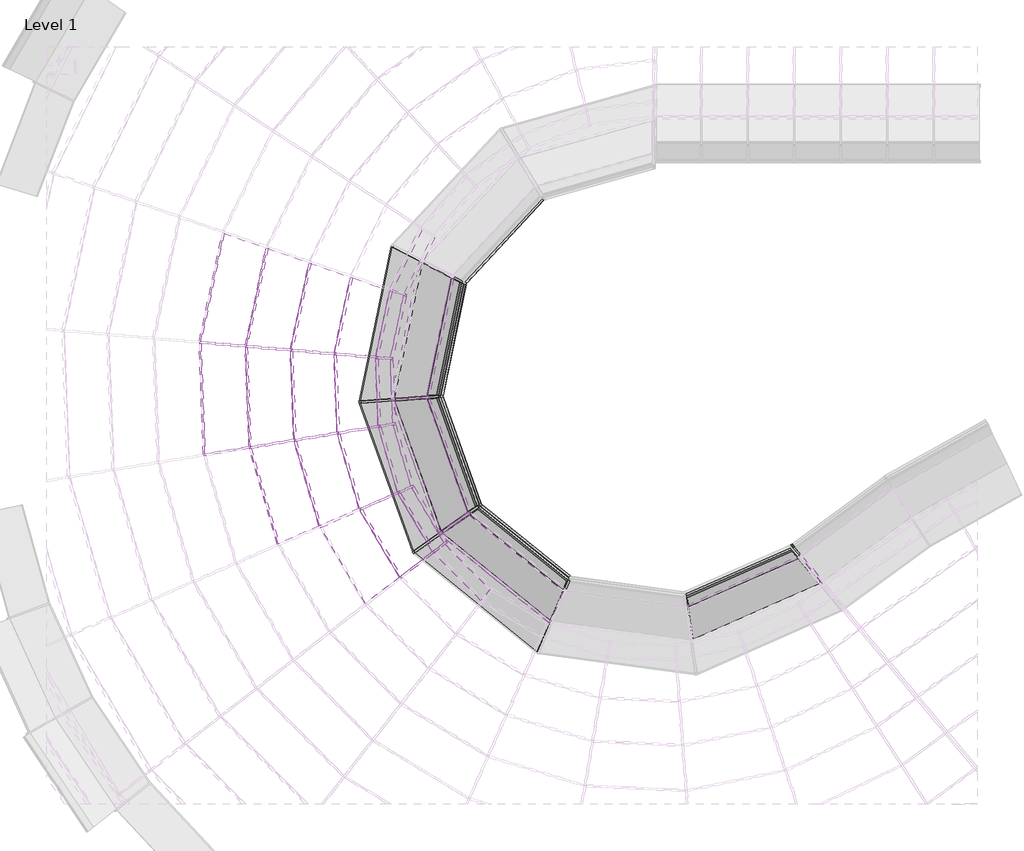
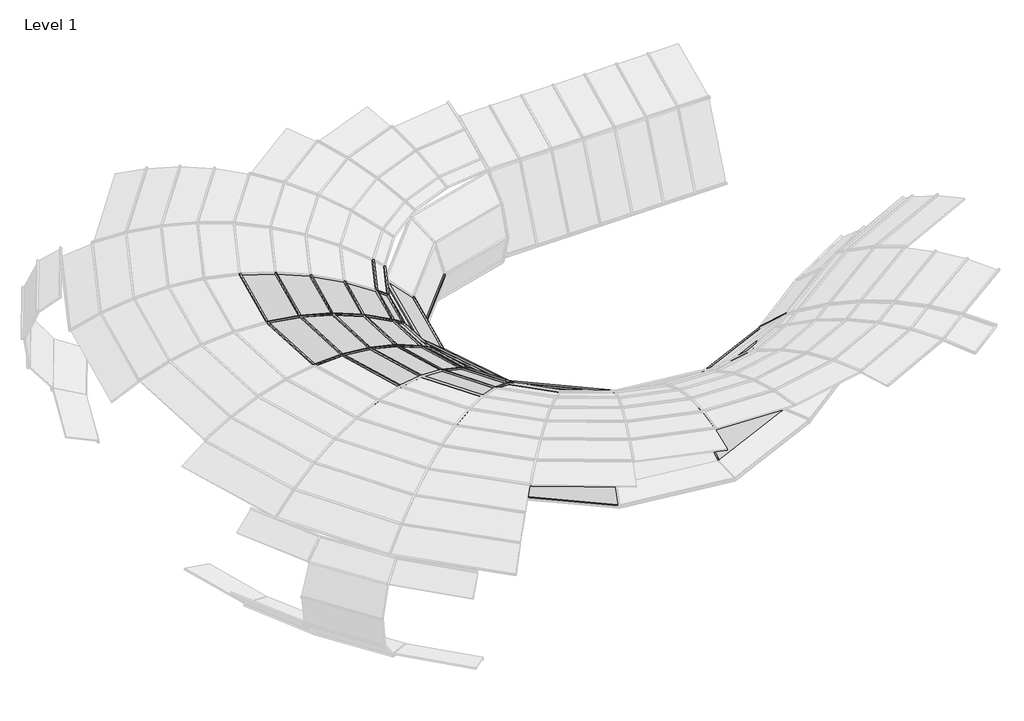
# One storey, part 6 of 23: 68 members, 36 plates.
"""IFC4 building model written with IfcOpenShell, lengths in millimetres."""

from ifc_helpers import new_model, si_unit, origin, place, context, project, spatial, transform, mapped, element, save
from components import member_c876edb5, member_782630c7, member_398e5ff5, member_398607d0, member_5ccaa950, member_8174f0e4, member_18f2ae55, member_299080b6, member_cb0bb3a9, member_172ab1ab, member_54499f2f, member_c8b9029b, member_0cd36c09, member_d0a40a1c, member_ff9adfd2, member_8c9da58c, member_391bee44, member_01ebdf2a, member_d6b8231b, member_c947e835, member_77008461, member_264a49eb, system_panel_glazed_9f229a92, system_panel_glazed_a07c5774, system_panel_glazed_4fd85c75, system_panel_glazed_1256fb3b, system_panel_glazed_de823024, system_panel_glazed_b0e446d2, system_panel_glazed_ac948568, system_panel_glazed_688557e5, system_panel_glazed_4c871569, system_panel_glazed_08c7efc5

model = new_model("IFC4")

# Units and contexts
model_context = context("Model", 3, world=origin())
ifc_project = project(units=[si_unit("LENGTHUNIT", "METRE", prefix="MILLI")], contexts=[model_context])

# Site, building, storey
site = spatial("IfcSite", under=ifc_project)
building = spatial("IfcBuilding", under=site)
storey = spatial("IfcBuildingStorey", under=building, Name="Level 1", Elevation=0.0)

# Members
placement = place(None, origin())
member_shape = member_c876edb5(model_context)
element("IfcMember", 1, ObjectType="Rectangular Mullion : 1\" Square", at=placement, inside=storey, context=model_context, shape_type="MappedRepresentation", body=[
    mapped(member_shape, transform((-14677.9959205, -925.1409597, 2676.0506073), x_axis=(0.9418970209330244, -0.200067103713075, -0.26982059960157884), y_axis=(0.26393230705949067, -0.0560615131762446, 0.9629106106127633), z_axis=(-0.20777328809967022, -0.9781770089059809, 0.0))),
])
element("IfcMember", 2, ObjectType="Rectangular Mullion : 1\" Square", at=placement, inside=storey, context=model_context, shape_type="MappedRepresentation", body=[
    mapped(member_shape, transform((-14635.9413521, -2105.5336551, 2676.0506073), x_axis=(0.9622064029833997, 0.03681958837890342, -0.26982059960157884), y_axis=(0.2696232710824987, 0.01031734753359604, 0.9629106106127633), z_axis=(0.03823780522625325, -0.9992686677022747, 0.0))),
])
element("IfcMember", 3, ObjectType="Rectangular Mullion : 1\" Square", at=placement, inside=storey, context=model_context, shape_type="MappedRepresentation", body=[
    mapped(member_shape, transform((-14305.9433988, -3239.6398462, 2676.0506073), x_axis=(0.9238536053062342, 0.2714615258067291, -0.2698205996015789), y_axis=(0.2588762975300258, 0.07606719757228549, 0.9629106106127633), z_axis=(0.2819176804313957, -0.9594385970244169, 0.0))),
])
member_2_shape = member_782630c7(model_context)
element("IfcMember", 4, ObjectType="Rectangular Mullion : 1\" Square", at=placement, inside=storey, context=model_context, shape_type="MappedRepresentation", body=[
    mapped(member_2_shape, transform((-14104.2887069, -974.3275091, 2475.91846), x_axis=(0.9040281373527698, -0.192023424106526, -0.38191639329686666), y_axis=(0.37358183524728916, -0.07935202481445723, 0.924196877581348), z_axis=(-0.20777328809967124, -0.9781770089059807, 0.0))),
])
element("IfcMember", 5, ObjectType="Rectangular Mullion : 1\" Square", at=placement, inside=storey, context=model_context, shape_type="MappedRepresentation", body=[
    mapped(member_2_shape, transform((-14067.6706277, -2012.6484174, 2475.91846), x_axis=(0.9235209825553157, 0.03533926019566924, -0.3819163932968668), y_axis=(0.38163708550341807, 0.014603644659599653, 0.9241968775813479), z_axis=(0.03823780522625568, -0.9992686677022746, 0.0))),
])
element("IfcMember", 6, ObjectType="Rectangular Mullion : 1\" Square", at=placement, inside=storey, context=model_context, shape_type="MappedRepresentation", body=[
    mapped(member_2_shape, transform((-13777.7545362, -3010.3456923, 2475.91846), x_axis=(0.8867101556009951, 0.2605474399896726, -0.3819163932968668), y_axis=(0.36642532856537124, 0.10766898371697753, 0.9241968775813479), z_axis=(0.2819176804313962, -0.9594385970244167, 0.0))),
])
element("IfcMember", 7, ObjectType="Rectangular Mullion : 1\" Square", at=placement, inside=storey, context=model_context, shape_type="MappedRepresentation", body=[
    mapped(member_2_shape, transform((-13252.2155485, -3906.5934062, 2475.91846), x_axis=(0.7958398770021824, 0.4698710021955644, -0.3819163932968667), y_axis=(0.32887396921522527, 0.194170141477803, 0.9241968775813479), z_axis=(0.5084100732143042, -0.8611150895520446, 0.0))),
])
member_3_shape = member_398e5ff5(model_context)
element("IfcMember", 8, ObjectType="Rectangular Mullion : 1\" Square", at=placement, inside=storey, context=model_context, shape_type="MappedRepresentation", body=[
    mapped(member_3_shape, transform((-13367.598738, -137.81555, 2208.6526723), x_axis=(0.7829440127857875, -0.38483511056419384, -0.48877460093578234), y_axis=(0.4386505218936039, -0.2156068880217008, 0.8724101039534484), z_axis=(-0.4411172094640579, -0.8974495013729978, 0.0))),
])
element("IfcMember", 9, ObjectType="Rectangular Mullion : 1\" Square", at=placement, inside=storey, context=model_context, shape_type="MappedRepresentation", body=[
    mapped(member_3_shape, transform((-13558.4033696, -1021.1287616, 2208.6526723), x_axis=(0.8533715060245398, -0.1812635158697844, -0.48877460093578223), y_axis=(0.47810807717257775, -0.10155430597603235, 0.8724101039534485), z_axis=(-0.20777328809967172, -0.9781770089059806, 0.0))),
])
element("IfcMember", 10, ObjectType="Rectangular Mullion : 1\" Square", at=placement, inside=storey, context=model_context, shape_type="MappedRepresentation", body=[
    mapped(member_3_shape, transform((-13526.9581375, -1924.2676405, 2208.6526723), x_axis=(0.8717720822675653, 0.033359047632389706, -0.4887746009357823), y_axis=(0.4884171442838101, 0.018689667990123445, 0.8724101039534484), z_axis=(0.038237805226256, -0.9992686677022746, 0.0))),
])
element("IfcMember", 11, ObjectType="Rectangular Mullion : 1\" Square", at=placement, inside=storey, context=model_context, shape_type="MappedRepresentation", body=[
    mapped(member_3_shape, transform((-13275.1801418, -2792.1711363, 2208.6526723), x_axis=(0.8370239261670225, 0.24594783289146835, -0.48877460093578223), y_axis=(0.4689492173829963, 0.13779420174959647, 0.8724101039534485), z_axis=(0.281917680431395, -0.9594385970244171, 0.0))),
])
element("IfcMember", 12, ObjectType="Rectangular Mullion : 1\" Square", at=placement, inside=storey, context=model_context, shape_type="MappedRepresentation", body=[
    mapped(member_3_shape, transform((-12818.4193593, -3571.9263702, 2208.6526723), x_axis=(0.7512455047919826, 0.4435420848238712, -0.48877460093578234), y_axis=(0.42089118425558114, 0.24849793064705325, 0.8724101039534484), z_axis=(0.5084100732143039, -0.8611150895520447, 0.0))),
])
member_4_shape = member_398607d0(model_context)
element("IfcMember", 13, ObjectType="Rectangular Mullion : 1\" Square", at=placement, inside=storey, context=model_context, shape_type="MappedRepresentation", body=[
    mapped(member_4_shape, transform((-15875.9493243, -822.4349228, 2864.5209769), x_axis=(0.9775369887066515, -0.20763734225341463, -0.03616863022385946), y_axis=(0.03537932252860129, -0.007514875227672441, 0.9993457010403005), z_axis=(-0.20777328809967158, -0.9781770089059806, 0.0))),
])
element("IfcMember", 14, ObjectType="Rectangular Mullion : 1\" Square", at=placement, inside=storey, context=model_context, shape_type="MappedRepresentation", body=[
    mapped(member_4_shape, transform((-15822.5428667, -2299.4865703, 2864.5209769), x_axis=(0.9986148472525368, 0.03821278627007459, -0.03616863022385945), y_axis=(0.03614217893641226, 0.001383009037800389, 0.9993457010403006), z_axis=(0.03823780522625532, -0.9992686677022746, 0.0))),
])
member_5_shape = member_5ccaa950(model_context)
element("IfcMember", 15, ObjectType="Rectangular Mullion : 1\" Square", at=placement, inside=storey, context=model_context, shape_type="MappedRepresentation", body=[
    mapped(member_5_shape, transform((-15271.3632702, -874.2688567, 2806.2019711), x_axis=(0.9665017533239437, -0.20529336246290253, -0.15404218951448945), y_axis=(0.1506805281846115, -0.03200585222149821, 0.9880642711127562), z_axis=(-0.20777328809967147, -0.9781770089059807, 0.0))),
])
element("IfcMember", 16, ObjectType="Rectangular Mullion : 1\" Square", at=placement, inside=storey, context=model_context, shape_type="MappedRepresentation", body=[
    mapped(member_5_shape, transform((-15223.6859117, -2201.6019386, 2806.2019711), x_axis=(0.987341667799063, 0.037781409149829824, -0.15404218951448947), y_axis=(0.15392953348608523, 0.005890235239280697, 0.9880642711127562), z_axis=(0.03823780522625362, -0.9992686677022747, 0.0))),
])
element("IfcMember", 17, ObjectType="Rectangular Mullion : 1\" Square", at=placement, inside=storey, context=model_context, shape_type="MappedRepresentation", body=[
    mapped(member_5_shape, transform((-14852.2325478, -3476.791587, 2806.2019711), x_axis=(0.9479869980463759, 0.27855278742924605, -0.15404218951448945), y_axis=(0.1477940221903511, 0.043427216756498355, 0.9880642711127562), z_axis=(0.28191768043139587, -0.9594385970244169, 0.0))),
])
member_6_shape = member_8174f0e4(model_context)
element("IfcMember", 18, ObjectType="Rectangular Mullion : 1\" Square", at=placement, inside=storey, context=model_context, shape_type="MappedRepresentation", body=[
    mapped(member_6_shape, transform((-13172.3085476, -205.3780141, 2085.6089632), x_axis=(0.7695498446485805, -0.3782515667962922, -0.5145082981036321), y_axis=(0.4617452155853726, -0.22695846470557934, 0.8574853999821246), z_axis=(-0.44111720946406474, -0.8974495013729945, 0.0))),
])
element("IfcMember", 19, ObjectType="Rectangular Mullion : 1\" Square", at=placement, inside=storey, context=model_context, shape_type="MappedRepresentation", body=[
    mapped(member_6_shape, transform((-13352.5117699, -1038.7807922, 2085.6089632), x_axis=(0.8387725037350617, -0.17816256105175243, -0.5145082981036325), y_axis=(0.5032801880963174, -0.1069010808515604, 0.8574853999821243), z_axis=(-0.2077732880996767, -0.9781770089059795, 0.0))),
])
element("IfcMember", 20, ObjectType="Rectangular Mullion : 1\" Square", at=placement, inside=storey, context=model_context, shape_type="MappedRepresentation", body=[
    mapped(member_6_shape, transform((-13323.0175809, -1890.9330585, 2085.6089632), x_axis=(0.8568582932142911, 0.03278835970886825, -0.5145082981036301), y_axis=(0.5141320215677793, 0.019673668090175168, 0.8574853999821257), z_axis=(0.03823780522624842, -0.9992686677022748, 0.0))),
])
element("IfcMember", 21, ObjectType="Rectangular Mullion : 1\" Square", at=placement, inside=storey, context=model_context, shape_type="MappedRepresentation", body=[
    mapped(member_6_shape, transform((-13085.6241327, -2709.8822283, 2085.6089632), x_axis=(0.822704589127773, 0.24174029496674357, -0.5145082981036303), y_axis=(0.4936391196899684, 0.14504898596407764, 0.8574853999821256), z_axis=(0.28191768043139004, -0.9594385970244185, 0.0))),
])
element("IfcMember", 22, ObjectType="Rectangular Mullion : 1\" Square", at=placement, inside=storey, context=model_context, shape_type="MappedRepresentation", body=[
    mapped(member_6_shape, transform((-12654.8044292, -3445.6999877, 2085.6089632), x_axis=(0.7383936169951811, 0.435954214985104, -0.5145082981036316), y_axis=(0.4430508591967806, 0.26158120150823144, 0.8574853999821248), z_axis=(0.5084100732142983, -0.861115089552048, 0.0))),
])
member_7_shape = member_18f2ae55(model_context)
element("IfcMember", 23, ObjectType="Rectangular Mullion : 1\" Square", at=placement, inside=storey, context=model_context, shape_type="MappedRepresentation", body=[
    mapped(member_7_shape, transform((-12352.1152218, -3061.8737136, 1696.6281859), x_axis=(0.5394330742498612, 0.1929929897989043, -0.8196131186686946), y_axis=(0.771710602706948, 0.2760949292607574, 0.5729173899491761), z_axis=(0.33686006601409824, -0.9415547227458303, 0.0))),
])
element("IfcMember", 24, ObjectType="Rectangular Mullion : 1\" Square", at=placement, inside=storey, context=model_context, shape_type="MappedRepresentation", body=[
    mapped(member_7_shape, transform((-8030.7687332, -3659.3363187, 1696.6281859), x_axis=(-0.23030109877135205, 0.5245910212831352, -0.8196131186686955), y_axis=(-0.32946774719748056, 0.750477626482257, 0.5729173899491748), z_axis=(0.9156486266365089, 0.40197959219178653, 0.0))),
])
element("IfcMember", 25, ObjectType="Rectangular Mullion : 1\" Square", at=placement, inside=storey, context=model_context, shape_type="MappedRepresentation", body=[
    mapped(member_7_shape, transform((-12888.5133297, -1542.9836549, 1696.6281859), x_axis=(0.5611087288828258, -0.11572091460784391, -0.8196131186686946), y_axis=(0.802719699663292, -0.16554983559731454, 0.5729173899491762), z_axis=(-0.20198534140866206, -0.9793885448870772, 0.0))),
])
member_8_shape = member_299080b6(model_context)
element("IfcMember", 26, ObjectType="Rectangular Mullion : 1\" Square", at=placement, inside=storey, context=model_context, shape_type="MappedRepresentation", body=[
    mapped(member_8_shape, transform((-12391.173045, -52.2187002, 1116.1918244), x_axis=(0.020016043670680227, -0.018659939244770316, -0.9996255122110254), y_axis=(0.7311768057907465, -0.6816389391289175, 0.02736485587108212), z_axis=(-0.6818943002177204, -0.7314507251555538, 0.0))),
])
element("IfcMember", 27, ObjectType="Rectangular Mullion : 1\" Square", at=placement, inside=storey, context=model_context, shape_type="MappedRepresentation", body=[
    mapped(member_8_shape, transform((-12702.6759388, -1529.9354992, 1116.1918244), x_axis=(0.026800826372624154, -0.005527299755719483, -0.9996255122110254), y_axis=(0.979021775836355, -0.201909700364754, 0.027364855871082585), z_axis=(-0.20198534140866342, -0.9793885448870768, 0.0))),
])
element("IfcMember", 28, ObjectType="Rectangular Mullion : 1\" Square", at=placement, inside=storey, context=model_context, shape_type="MappedRepresentation", body=[
    mapped(member_8_shape, transform((-12200.1764927, -2954.0756951, 1116.1918244), x_axis=(0.025765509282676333, 0.009218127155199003, -0.9996255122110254), y_axis=(0.9412021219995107, 0.33673391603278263, 0.02736485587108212), z_axis=(0.3368600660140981, -0.9415547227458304, 0.0))),
])
element("IfcMember", 29, ObjectType="Rectangular Mullion : 1\" Square", at=placement, inside=storey, context=model_context, shape_type="MappedRepresentation", body=[
    mapped(member_8_shape, transform((-11030.296895, -3909.0954425, 1116.1918244), x_axis=(0.017212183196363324, 0.02127383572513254, -0.9996255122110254), y_axis=(0.6287530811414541, 0.7771233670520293, 0.02736485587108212), z_axis=(0.7774144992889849, -0.6289886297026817, 0.0))),
])
member_9_shape = member_cb0bb3a9(model_context)
element("IfcMember", 30, ObjectType="Rectangular Mullion : 1\" Square", at=placement, inside=storey, context=model_context, shape_type="MappedRepresentation", body=[
    mapped(member_9_shape, transform((-13304.6485568, -1572.2016569, 113.4427618), x_axis=(-0.8822854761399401, 0.18195917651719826, -0.43412348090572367), y_axis=(0.4251755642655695, -0.08768657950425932, -0.9008533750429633), z_axis=(-0.20198534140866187, -0.979388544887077, 0.0))),
])
element("IfcMember", 31, ObjectType="Rectangular Mullion : 1\" Square", at=placement, inside=storey, context=model_context, shape_type="MappedRepresentation", body=[
    mapped(member_9_shape, transform((-12692.3430806, -3303.2597593, 113.4427618), x_axis=(-0.8482027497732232, -0.3034615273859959, -0.43412348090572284), y_axis=(0.4087510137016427, 0.14623886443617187, -0.9008533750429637), z_axis=(0.3368600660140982, -0.9415547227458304, 0.0))),
])
member_10_shape = member_172ab1ab(model_context)
element("IfcMember", 32, ObjectType="Rectangular Mullion : 1\" Square", at=placement, inside=storey, context=model_context, shape_type="MappedRepresentation", body=[
    mapped(member_10_shape, transform((-13787.0408851, -1606.0717526, 0.0), x_axis=(-0.9515524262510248, 0.1962445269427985, -0.23671938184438), y_axis=(0.2318402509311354, -0.04781384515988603, -0.9715780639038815), z_axis=(-0.20198534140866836, -0.9793885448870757, 0.0))),
])
element("IfcMember", 33, ObjectType="Rectangular Mullion : 1\" Square", at=placement, inside=storey, context=model_context, shape_type="MappedRepresentation", body=[
    mapped(member_10_shape, transform((-13086.74206, -3583.0793202, 0.0), x_axis=(-0.9147939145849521, -0.32728585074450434, -0.23671938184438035), y_axis=(0.2228842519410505, 0.07974130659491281, -0.9715780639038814), z_axis=(0.3368600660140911, -0.9415547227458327, 0.0))),
])
member_11_shape = member_54499f2f(model_context)
element("IfcMember", 34, ObjectType="Rectangular Mullion : 1\" Square", at=placement, inside=storey, context=model_context, shape_type="MappedRepresentation", body=[
    mapped(member_11_shape, transform((-12857.6188357, -1540.8144673, 526.7119632), x_axis=(-0.5173007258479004, 0.10668611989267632, -0.8491278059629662), y_axis=(0.831626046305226, -0.17151136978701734, -0.5281874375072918), z_axis=(-0.2019853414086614, -0.9793885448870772, 0.0))),
])
element("IfcMember", 35, ObjectType="Rectangular Mullion : 1\" Square", at=placement, inside=storey, context=model_context, shape_type="MappedRepresentation", body=[
    mapped(member_11_shape, transform((-12326.856203, -3043.952857, 526.7119632), x_axis=(-0.49731737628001, -0.1779252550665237, -0.8491278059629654), y_axis=(0.7995002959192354, 0.2860372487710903, -0.528187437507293), z_axis=(0.3368600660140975, -0.9415547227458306, 0.0))),
])
member_12_shape = member_c8b9029b(model_context)
element("IfcMember", 36, ObjectType="Rectangular Mullion : 1\" Square", at=placement, inside=storey, context=model_context, shape_type="MappedRepresentation", body=[
    mapped(member_12_shape, transform((-13355.015511, -1600.2543072, 2085.6089632), x_axis=(-0.7136183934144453, -0.2553112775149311, 0.6523533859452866), y_axis=(0.6142264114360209, 0.2197518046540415, 0.7579149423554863), z_axis=(-0.33686006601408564, 0.9415547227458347, 0.0))),
])
element("IfcMember", 37, ObjectType="Rectangular Mullion : 1\" Square", at=placement, inside=storey, context=model_context, shape_type="MappedRepresentation", body=[
    mapped(member_12_shape, transform((-12720.7717512, -3353.4154364, 2085.6089632), x_axis=(-0.4767198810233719, -0.589214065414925, 0.6523533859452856), y_axis=(0.41032286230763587, 0.5071489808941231, 0.7579149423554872), z_axis=(-0.7774144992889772, 0.628988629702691, 0.0))),
])
member_13_shape = member_0cd36c09(model_context)
element("IfcMember", 38, ObjectType="Rectangular Mullion : 1\" Square", at=placement, inside=storey, context=model_context, shape_type="MappedRepresentation", body=[
    mapped(member_13_shape, transform((-15878.5880451, -834.8577708, 2864.5209769), x_axis=(-0.08542121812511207, -0.9963449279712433, 0.0), y_axis=(0.09531798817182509, -0.008172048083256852, 0.9954133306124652), z_axis=(-0.9917750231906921, 0.08502941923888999, 0.09566766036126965))),
])
element("IfcMember", 39, ObjectType="Rectangular Mullion : 1\" Square", at=placement, inside=storey, context=model_context, shape_type="MappedRepresentation", body=[
    mapped(member_13_shape, transform((-15274.0019909, -886.6917047, 2806.2019711), x_axis=(-0.08542121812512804, -0.996344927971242, 0.0), y_axis=(0.21272252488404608, -0.0182376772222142, 0.9769424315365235), z_axis=(-0.973371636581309, 0.08345161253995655, 0.21350289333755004))),
])
element("IfcMember", 40, ObjectType="Rectangular Mullion : 1\" Square", at=placement, inside=storey, context=model_context, shape_type="MappedRepresentation", body=[
    mapped(member_13_shape, transform((-14680.6346413, -937.5638077, 2676.0506073), x_axis=(-0.08542121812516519, -0.9963449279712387, 0.0), y_axis=(0.327100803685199, -0.028043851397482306, 0.9445732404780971), z_axis=(-0.9411207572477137, 0.08068659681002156, 0.3283007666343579))),
])
element("IfcMember", 41, ObjectType="Rectangular Mullion : 1\" Square", at=placement, inside=storey, context=model_context, shape_type="MappedRepresentation", body=[
    mapped(member_13_shape, transform((-15223.2002916, -2214.2926507, 2806.2019711), x_axis=(0.1613117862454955, -0.9869034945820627, 0.0), y_axis=(0.2107067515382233, 0.03444053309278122, 0.9769424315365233), z_axis=(-0.9641478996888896, -0.15759232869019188, 0.21350289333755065))),
])
element("IfcMember", 42, ObjectType="Rectangular Mullion : 1\" Square", at=placement, inside=storey, context=model_context, shape_type="MappedRepresentation", body=[
    mapped(member_13_shape, transform((-14635.455732, -2118.2243671, 2676.0506073), x_axis=(0.16131178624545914, -0.9869034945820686, 0.0), y_axis=(0.32400117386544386, 0.052958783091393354, 0.9445732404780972), z_axis=(-0.9322026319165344, -0.1523707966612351, 0.3283007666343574))),
])
member_14_shape = member_d0a40a1c(model_context)
element("IfcMember", 43, ObjectType="Rectangular Mullion : 1\" Square", at=placement, inside=storey, context=model_context, shape_type="MappedRepresentation", body=[
    mapped(member_14_shape, transform((-14106.9274277, -986.7503571, 2475.91846), x_axis=(-0.08542121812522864, -0.9963449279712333, 0.0), y_axis=(0.43682564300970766, -0.03745106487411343, 0.898766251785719), z_axis=(-0.8954811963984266, 0.07677370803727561, 0.4384281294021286))),
])
element("IfcMember", 44, ObjectType="Rectangular Mullion : 1\" Square", at=placement, inside=storey, context=model_context, shape_type="MappedRepresentation", body=[
    mapped(member_14_shape, transform((-14067.1850075, -2025.3391295, 2475.91846), x_axis=(0.16131178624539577, -0.9869034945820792, 0.0), y_axis=(0.43268625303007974, 0.07072362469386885, 0.8987662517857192), z_axis=(-0.8869955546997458, -0.14498158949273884, 0.43842812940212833))),
])
element("IfcMember", 45, ObjectType="Rectangular Mullion : 1\" Square", at=placement, inside=storey, context=model_context, shape_type="MappedRepresentation", body=[
    mapped(member_14_shape, transform((-13774.1741816, -3022.5305624, 2475.91846), x_axis=(0.398210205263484, -0.9172941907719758, 0.0), y_axis=(0.40216757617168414, 0.17458655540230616, 0.8987662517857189), z_axis=(-0.8244330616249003, -0.35789789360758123, 0.4384281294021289))),
])
element("IfcMember", 46, ObjectType="Rectangular Mullion : 1\" Square", at=placement, inside=storey, context=model_context, shape_type="MappedRepresentation", body=[
    mapped(member_14_shape, transform((-13245.7587406, -3917.5295678, 2475.91846), x_axis=(0.6108312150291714, -0.7917608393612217, 0.0), y_axis=(0.34713022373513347, 0.2678055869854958, 0.898766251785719), z_axis=(-0.7116079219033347, -0.5489944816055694, 0.43842812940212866))),
])
member_15_shape = member_ff9adfd2(model_context)
element("IfcMember", 47, ObjectType="Rectangular Mullion : 1\" Square", at=placement, inside=storey, context=model_context, shape_type="MappedRepresentation", body=[
    mapped(member_15_shape, transform((-13373.2009265, -149.2131586, 2208.6526723), x_axis=(-0.3269464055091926, -0.9450428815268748, 0.0), y_axis=(0.48348906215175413, -0.1672675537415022, 0.8592205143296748), z_axis=(-0.8120002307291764, 0.2809190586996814, 0.5116054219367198))),
])
element("IfcMember", 48, ObjectType="Rectangular Mullion : 1\" Square", at=placement, inside=storey, context=model_context, shape_type="MappedRepresentation", body=[
    mapped(member_15_shape, transform((-13561.0420903, -1033.5516096, 2208.6526723), x_axis=(-0.08542121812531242, -0.9963449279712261, 0.0), y_axis=(0.5097354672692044, -0.04370195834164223, 0.859220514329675), z_axis=(-0.856080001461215, 0.0733956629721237, 0.5116054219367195))),
])
element("IfcMember", 49, ObjectType="Rectangular Mullion : 1\" Square", at=placement, inside=storey, context=model_context, shape_type="MappedRepresentation", body=[
    mapped(member_15_shape, transform((-13526.4725174, -1936.9583525, 2208.6526723), x_axis=(0.16131178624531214, -0.9869034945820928, 0.0), y_axis=(0.5049051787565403, 0.08252798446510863, 0.859220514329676), z_axis=(-0.847967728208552, -0.13860239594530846, 0.5116054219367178))),
])
element("IfcMember", 50, ObjectType="Rectangular Mullion : 1\" Square", at=placement, inside=storey, context=model_context, shape_type="MappedRepresentation", body=[
    mapped(member_15_shape, transform((-13271.5997873, -2804.3560065, 2208.6526723), x_axis=(0.3982102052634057, -0.9172941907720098, 0.0), y_axis=(0.4692926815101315, 0.20372650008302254, 0.8592205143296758), z_axis=(-0.7881579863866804, -0.3421503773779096, 0.5116054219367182))),
])
element("IfcMember", 51, ObjectType="Rectangular Mullion : 1\" Square", at=placement, inside=storey, context=model_context, shape_type="MappedRepresentation", body=[
    mapped(member_15_shape, transform((-12811.9625514, -3582.8625318, 2208.6526723), x_axis=(0.6108312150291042, -0.7917608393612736, 0.0), y_axis=(0.40506913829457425, 0.3125045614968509, 0.8592205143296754), z_axis=(-0.6802971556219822, -0.5248387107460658, 0.5116054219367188))),
])
element("IfcMember", 52, ObjectType="Rectangular Mullion : 1\" Square", at=placement, inside=storey, context=model_context, shape_type="MappedRepresentation", body=[
    mapped(member_13_shape, transform((-15822.0572465, -2312.1772824, 2864.5209769), x_axis=(0.1613117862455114, -0.9869034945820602, 0.0), y_axis=(0.0944147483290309, 0.015432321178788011, 0.9954133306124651), z_axis=(-0.9823768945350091, -0.1605719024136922, 0.09566766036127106))),
])
member_16_shape = member_8c9da58c(model_context)
element("IfcMember", 53, ObjectType="Rectangular Mullion : 1\" Square", at=placement, inside=storey, context=model_context, shape_type="MappedRepresentation", body=[
    mapped(member_16_shape, transform((-12399.8331026, -61.5081244, 1116.1918244), x_axis=(-0.458997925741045, -0.8884373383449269, 0.0), y_axis=(0.8591140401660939, -0.4438484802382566, -0.25479715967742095), z_axis=(0.22637131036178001, -0.11695136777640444, 0.9669945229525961))),
])
element("IfcMember", 54, ObjectType="Rectangular Mullion : 1\" Square", at=placement, inside=storey, context=model_context, shape_type="MappedRepresentation", body=[
    mapped(member_16_shape, transform((-12891.0785435, -1555.4218894, 1696.6281859), x_axis=(0.07004032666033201, -0.9975441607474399, 0.0), y_axis=(0.9498210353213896, 0.06668955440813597, 0.30560187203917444), z_axis=(-0.3048513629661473, -0.021404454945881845, 0.9521593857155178))),
])
element("IfcMember", 55, ObjectType="Rectangular Mullion : 1\" Square", at=placement, inside=storey, context=model_context, shape_type="MappedRepresentation", body=[
    mapped(member_16_shape, transform((-12705.2411526, -1542.3737337, 1116.1918244), x_axis=(0.07004032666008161, -0.9975441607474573, 0.0), y_axis=(0.9646197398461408, 0.0677286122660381, -0.2547971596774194), z_axis=(0.2541714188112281, 0.017846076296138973, 0.9669945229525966))),
])
element("IfcMember", 56, ObjectType="Rectangular Mullion : 1\" Square", at=placement, inside=storey, context=model_context, shape_type="MappedRepresentation", body=[
    mapped(member_16_shape, transform((-12347.837099, -3073.8314586, 1696.6281859), x_axis=(0.5786418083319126, -0.8155817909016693, 0.0), y_axis=(0.7765638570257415, 0.5509592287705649, 0.3056018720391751), z_axis=(-0.24924332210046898, -0.17683401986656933, 0.9521593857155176))),
])
element("IfcMember", 57, ObjectType="Rectangular Mullion : 1\" Square", at=placement, inside=storey, context=model_context, shape_type="MappedRepresentation", body=[
    mapped(member_16_shape, transform((-12195.8983698, -2966.03344, 1116.1918244), x_axis=(0.5786418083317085, -0.815581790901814, 0.0), y_axis=(0.7886631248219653, 0.5595434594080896, -0.2547971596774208), z_axis=(0.2078079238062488, 0.14743628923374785, 0.9669945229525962))),
])
element("IfcMember", 58, ObjectType="Rectangular Mullion : 1\" Square", at=placement, inside=storey, context=model_context, shape_type="MappedRepresentation", body=[
    mapped(member_16_shape, transform((-11020.4237309, -3917.0835981, 1116.1918244), x_axis=(0.9184038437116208, -0.39564425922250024, 0.0), y_axis=(0.3825858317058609, 0.888091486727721, -0.25479715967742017), z_axis=(0.10080903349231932, 0.23400669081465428, 0.9669945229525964))),
])
member_17_shape = member_391bee44(model_context)
element("IfcMember", 59, ObjectType="Rectangular Mullion : 1\" Square", at=placement, inside=storey, context=model_context, shape_type="MappedRepresentation", body=[
    mapped(member_17_shape, transform((-8038.7859914, -3630.2893738, 526.7119632), x_axis=(0.7730505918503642, 0.6343443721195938, 0.0), y_axis=(-0.4300442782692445, 0.5240780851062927, -0.7351218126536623), z_axis=(-0.466320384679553, 0.5682863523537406, 0.6779350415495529))),
])
element("IfcMember", 60, ObjectType="Rectangular Mullion : 1\" Square", at=placement, inside=storey, context=model_context, shape_type="MappedRepresentation", body=[
    mapped(member_17_shape, transform((-12860.1840496, -1553.2527018, 526.7119632), x_axis=(0.07004032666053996, -0.9975441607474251, 0.0), y_axis=(0.6762701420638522, 0.047482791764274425, -0.7351218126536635), z_axis=(0.7333164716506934, 0.05148817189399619, 0.6779350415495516))),
])
element("IfcMember", 61, ObjectType="Rectangular Mullion : 1\" Square", at=placement, inside=storey, context=model_context, shape_type="MappedRepresentation", body=[
    mapped(member_17_shape, transform((-12322.5780802, -3055.910602, 526.7119632), x_axis=(0.5786418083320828, -0.8155817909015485, 0.0), y_axis=(0.5529114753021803, 0.3922815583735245, -0.7351218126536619), z_axis=(0.599551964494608, 0.4253722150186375, 0.6779350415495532))),
])
member_18_shape = member_01ebdf2a(model_context)
element("IfcMember", 62, ObjectType="Rectangular Mullion : 1\" Square", at=placement, inside=storey, context=model_context, shape_type="MappedRepresentation", body=[
    mapped(member_18_shape, transform((-13307.2137707, -1584.6398914, 113.4427618), x_axis=(0.07004032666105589, -0.9975441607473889, 0.0), y_axis=(0.2278283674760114, 0.01599645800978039, -0.9735698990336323), z_axis=(0.9711789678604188, 0.0681891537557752, 0.22838925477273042))),
])
element("IfcMember", 63, ObjectType="Rectangular Mullion : 1\" Square", at=placement, inside=storey, context=model_context, shape_type="MappedRepresentation", body=[
    mapped(member_18_shape, transform((-12688.0649577, -3315.2175042, 113.4427618), x_axis=(0.5786418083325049, -0.815581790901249, 0.0), y_axis=(0.18627011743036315, 0.13215557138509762, -0.9735698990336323), z_axis=(0.7940258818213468, 0.5633482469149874, 0.22838925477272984))),
])
member_19_shape = member_d6b8231b(model_context)
element("IfcMember", 64, ObjectType="Rectangular Mullion : 1\" Square", at=placement, inside=storey, context=model_context, shape_type="MappedRepresentation", body=[
    mapped(member_19_shape, transform((-12730.6449153, -3345.4272808, 2085.6089632), x_axis=(0.5786418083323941, -0.8155817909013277, 0.0), y_axis=(0.5204160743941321, 0.36922660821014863, 0.7699602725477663), z_axis=(-0.6279655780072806, -0.4455312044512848, 0.6380918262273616))),
])
element("IfcMember", 65, ObjectType="Rectangular Mullion : 1\" Square", at=placement, inside=storey, context=model_context, shape_type="MappedRepresentation", body=[
    mapped(member_19_shape, transform((-13359.2936338, -1588.2965622, 2085.6089632), x_axis=(0.07004032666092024, -0.9975441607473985, 0.0), y_axis=(0.6365247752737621, 0.044692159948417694, 0.7699602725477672), z_axis=(-0.7680693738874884, -0.05392826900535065, 0.6380918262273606))),
])
member_20_shape = member_c947e835(model_context)
element("IfcMember", 66, ObjectType="Rectangular Mullion : 1\" Square", at=placement, inside=storey, context=model_context, shape_type="MappedRepresentation", body=[
    mapped(member_20_shape, transform((-8006.4137076, -3643.7293495, 1696.6281859), x_axis=(-0.7847540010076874, -0.6190879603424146, 0.029853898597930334), y_axis=(-0.3773462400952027, 0.5154243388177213, 0.7693812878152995), z_axis=(-0.49170211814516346, 0.5925097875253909, -0.6380918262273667))),
])
member_21_shape = member_77008461(model_context)
element("IfcMember", 67, ObjectType="Rectangular Mullion : 1\" Square", at=placement, inside=storey, context=model_context, shape_type="MappedRepresentation", body=[
    mapped(member_21_shape, transform((-8125.3829594, -3500.3692876, 1116.1918244), x_axis=(-0.8033943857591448, -0.5951851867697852, 0.01766506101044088), y_axis=(-0.5625568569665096, 0.768407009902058, 0.3050908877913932), z_axis=(-0.19515953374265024, 0.23517070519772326, -0.9521593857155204))),
])
member_22_shape = member_264a49eb(model_context)
element("IfcMember", 68, ObjectType="Rectangular Mullion : 1\" Square", at=placement, inside=storey, context=model_context, shape_type="MappedRepresentation", body=[
    mapped(member_22_shape, transform((-8026.1917233, -3619.8964892, 526.7119632), x_axis=(-0.8044559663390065, -0.5938239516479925, -0.014957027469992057), y_axis=(-0.5712918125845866, 0.7803382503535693, -0.2543577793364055), z_axis=(0.1627152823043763, -0.1960748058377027, -0.9669945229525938))),
])

# Plates
system_panel_glazed_shape = system_panel_glazed_9f229a92(model_context)
element("IfcPlate", 69, ObjectType="System Panel : Glazed", at=placement, inside=storey, context=model_context, shape_type="MappedRepresentation", body=[
    mapped(system_panel_glazed_shape, transform((-15712.6369636, -114.4154084, 2863.296718), x_axis=(-0.20777328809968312, -0.9781770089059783, 0.0), y_axis=(-0.09429463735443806, 0.020028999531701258, -0.9953428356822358), z_axis=(0.9736214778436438, -0.2068056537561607, -0.09639833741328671))),
])
element("IfcPlate", 70, ObjectType="System Panel : Glazed", at=placement, inside=storey, context=model_context, shape_type="MappedRepresentation", body=[
    mapped(system_panel_glazed_shape, transform((-15837.6910364, -1573.0341681, 2863.296718), x_axis=(0.03823780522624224, -0.9992686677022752, 0.0), y_axis=(-0.0963278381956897, -0.003686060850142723, -0.9953428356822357), z_axis=(0.9946149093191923, 0.03805972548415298, -0.09639833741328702))),
])
system_panel_glazed_2_shape = system_panel_glazed_a07c5774(model_context)
element("IfcPlate", 71, ObjectType="System Panel : Glazed", at=placement, inside=storey, context=model_context, shape_type="MappedRepresentation", body=[
    mapped(system_panel_glazed_2_shape, transform((-15123.8489165, -239.4791008, 2803.4705448), x_axis=(-0.20777328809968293, -0.9781770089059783, 0.0), y_axis=(-0.21037940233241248, 0.04468641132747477, -0.9765979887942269), z_axis=(0.9552856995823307, -0.20291097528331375, -0.2150729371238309))),
])
element("IfcPlate", 72, ObjectType="System Panel : Glazed", at=placement, inside=storey, context=model_context, shape_type="MappedRepresentation", body=[
    mapped(system_panel_glazed_2_shape, transform((-15236.2074174, -1550.0179221, 2803.4705448), x_axis=(0.03823780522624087, -0.9992686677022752, 0.0), y_axis=(-0.21491564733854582, -0.008223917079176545, -0.9765979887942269), z_axis=(0.9758837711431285, 0.03734296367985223, -0.21507293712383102))),
])
element("IfcPlate", 73, ObjectType="System Panel : Glazed", at=placement, inside=storey, context=model_context, shape_type="MappedRepresentation", body=[
    mapped(system_panel_glazed_2_shape, transform((-15024.0265227, -2848.1379869, 2803.4705448), x_axis=(0.28191768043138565, -0.9594385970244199, 0.0), y_axis=(-0.20634927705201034, -0.06063286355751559, -0.9765979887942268), z_axis=(0.9369858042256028, 0.2753202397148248, -0.21507293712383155))),
])
system_panel_glazed_3_shape = system_panel_glazed_4fd85c75(model_context)
element("IfcPlate", 74, ObjectType="System Panel : Glazed", at=placement, inside=storey, context=model_context, shape_type="MappedRepresentation", body=[
    mapped(system_panel_glazed_3_shape, transform((-14546.1654963, -362.1840741, 2671.8525455), x_axis=(-0.20777328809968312, -0.9781770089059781, 0.0), y_axis=(-0.3233423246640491, 0.06868071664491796, -0.943786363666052), z_axis=(0.9231901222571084, -0.19609359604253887, -0.3305560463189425))),
])
element("IfcPlate", 75, ObjectType="System Panel : Glazed", at=placement, inside=storey, context=model_context, shape_type="MappedRepresentation", body=[
    mapped(system_panel_glazed_3_shape, transform((-14646.0678656, -1527.4357658, 2671.8525455), x_axis=(0.038237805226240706, -0.9992686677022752, 0.0), y_axis=(-0.3303143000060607, -0.012639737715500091, -0.9437863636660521), z_axis=(0.9430961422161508, 0.036088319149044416, -0.330556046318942))),
])
element("IfcPlate", 76, ObjectType="System Panel : Glazed", at=placement, inside=storey, context=model_context, shape_type="MappedRepresentation", body=[
    mapped(system_panel_glazed_3_shape, transform((-14457.4094738, -2681.645452, 2671.8525455), x_axis=(0.28191768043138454, -0.9594385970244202, 0.0), y_axis=(-0.31714822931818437, -0.09318959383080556, -0.9437863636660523), z_axis=(0.9055050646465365, 0.2660700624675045, -0.3305560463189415))),
])
element("IfcPlate", 77, ObjectType="System Panel : Glazed", at=placement, inside=storey, context=model_context, shape_type="MappedRepresentation", body=[
    mapped(system_panel_glazed_3_shape, transform((-13991.692128, -3754.44522, 2671.8525455), x_axis=(0.5084100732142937, -0.8611150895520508, 0.0), y_axis=(-0.28464679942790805, -0.1680580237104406, -0.9437863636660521), z_axis=(0.8127086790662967, 0.4798304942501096, -0.3305560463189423))),
])
system_panel_glazed_4_shape = system_panel_glazed_1256fb3b(model_context)
element("IfcPlate", 78, ObjectType="System Panel : Glazed", at=placement, inside=storey, context=model_context, shape_type="MappedRepresentation", body=[
    mapped(system_panel_glazed_4_shape, transform((-13987.8042955, -480.7848402, 2470.3158265), x_axis=(-0.20777328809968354, -0.978177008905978, 0.0), y_axis=(-0.4315249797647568, 0.09165965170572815, -0.8974322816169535), z_axis=(0.8778476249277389, -0.18646245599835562, -0.44115224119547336))),
])
element("IfcPlate", 79, ObjectType="System Panel : Glazed", at=placement, inside=storey, context=model_context, shape_type="MappedRepresentation", body=[
    mapped(system_panel_glazed_4_shape, transform((-14075.6671629, -1505.6089321, 2470.3158265), x_axis=(0.038237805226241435, -0.9992686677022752, 0.0), y_axis=(-0.44082961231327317, -0.01686869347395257, -0.8974322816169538), z_axis=(0.8967759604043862, 0.034315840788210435, -0.441152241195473))),
])
element("IfcPlate", 80, ObjectType="System Panel : Glazed", at=placement, inside=storey, context=model_context, shape_type="MappedRepresentation", body=[
    mapped(system_panel_glazed_4_shape, transform((-13909.7444987, -2520.7217202, 2470.3158265), x_axis=(0.2819176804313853, -0.95943859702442, 0.0), y_axis=(-0.42325848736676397, -0.12436861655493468, -0.8974322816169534), z_axis=(0.8610311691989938, 0.2530020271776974, -0.4411522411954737))),
])
element("IfcPlate", 81, ObjectType="System Panel : Glazed", at=placement, inside=storey, context=model_context, shape_type="MappedRepresentation", body=[
    mapped(system_panel_glazed_4_shape, transform((-13500.1519966, -3464.2355173, 2470.3158265), x_axis=(0.5084100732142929, -0.8611150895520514, 0.0), y_axis=(-0.3798828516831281, -0.22428624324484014, -0.8974322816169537), z_axis=(0.7727924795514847, 0.4562636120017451, -0.44115224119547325))),
])
system_panel_glazed_5_shape = system_panel_glazed_de823024(model_context)
element("IfcPlate", 82, ObjectType="System Panel : Glazed", at=placement, inside=storey, context=model_context, shape_type="MappedRepresentation", body=[
    mapped(system_panel_glazed_5_shape, transform((-13456.4690976, -593.6450486, 2202.1184169), x_axis=(-0.2077732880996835, -0.978177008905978, 0.0), y_axis=(-0.5032801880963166, 0.10690108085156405, -0.8574853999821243), z_axis=(0.8387725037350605, -0.17816256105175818, -0.5145082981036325))),
])
element("IfcPlate", 83, ObjectType="System Panel : Glazed", at=placement, inside=storey, context=model_context, shape_type="MappedRepresentation", body=[
    mapped(system_panel_glazed_5_shape, transform((-13532.8752035, -1484.8385689, 2202.1184169), x_axis=(0.03823780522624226, -0.9992686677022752, 0.0), y_axis=(-0.5141320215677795, -0.019673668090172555, -0.8574853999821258), z_axis=(0.8568582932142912, 0.032788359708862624, -0.5145082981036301))),
])
element("IfcPlate", 84, ObjectType="System Panel : Glazed", at=placement, inside=storey, context=model_context, shape_type="MappedRepresentation", body=[
    mapped(system_panel_glazed_5_shape, transform((-13388.5878041, -2367.5870778, 2202.1184169), x_axis=(0.28191768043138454, -0.9594385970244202, 0.0), y_axis=(-0.49363911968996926, -0.14504898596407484, -0.8574853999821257), z_axis=(0.8227045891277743, 0.24174029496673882, -0.5145082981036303))),
])
element("IfcPlate", 85, ObjectType="System Panel : Glazed", at=placement, inside=storey, context=model_context, shape_type="MappedRepresentation", body=[
    mapped(system_panel_glazed_5_shape, transform((-13032.4035704, -3188.0726506, 2202.1184169), x_axis=(0.5084100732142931, -0.8611150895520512, 0.0), y_axis=(-0.4430508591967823, -0.2615812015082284, -0.8574853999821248), z_axis=(0.7383936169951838, 0.4359542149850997, -0.5145082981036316))),
])
element("IfcPlate", 86, ObjectType="System Panel : Glazed", at=placement, inside=storey, context=model_context, shape_type="MappedRepresentation", body=[
    mapped(system_panel_glazed_5_shape, transform((-12486.0377431, -3896.2733047, 2202.1184169), x_axis=(0.7039065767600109, -0.710292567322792, 0.0), y_axis=(-0.36545141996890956, -0.36216577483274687, -0.8574853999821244), z_axis=(0.6090655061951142, 0.603589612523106, -0.5145082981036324))),
])
system_panel_glazed_6_shape = system_panel_glazed_b0e446d2(model_context)
element("IfcPlate", 87, ObjectType="System Panel : Glazed", at=placement, inside=storey, context=model_context, shape_type="MappedRepresentation", body=[
    mapped(system_panel_glazed_6_shape, transform((-13151.9667253, -678.3168653, 2069.0391872), x_axis=(-0.201985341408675, -0.9793885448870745, 0.0), y_axis=(-0.6389074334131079, 0.13176582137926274, -0.7579149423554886), z_axis=(0.7422932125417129, -0.15308770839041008, -0.6523533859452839))),
])
element("IfcPlate", 88, ObjectType="System Panel : Glazed", at=placement, inside=storey, context=model_context, shape_type="MappedRepresentation", body=[
    mapped(system_panel_glazed_6_shape, transform((-13026.8433674, -2460.3770151, 2069.0391872), x_axis=(0.3368600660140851, -0.9415547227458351, 0.0), y_axis=(-0.6142264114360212, -0.21975180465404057, -0.7579149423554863), z_axis=(0.7136183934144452, 0.2553112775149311, -0.6523533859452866))),
])
element("IfcPlate", 89, ObjectType="System Panel : Glazed", at=placement, inside=storey, context=model_context, shape_type="MappedRepresentation", body=[
    mapped(system_panel_glazed_6_shape, transform((-11993.1302264, -3917.3709664, 2069.0391872), x_axis=(0.7774144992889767, -0.6289886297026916, 0.0), y_axis=(-0.41032286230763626, -0.5071489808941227, -0.7579149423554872), z_axis=(0.47671988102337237, 0.5892140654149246, -0.6523533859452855))),
])
system_panel_glazed_7_shape = system_panel_glazed_ac948568(model_context)
element("IfcPlate", 90, ObjectType="System Panel : Glazed", at=placement, inside=storey, context=model_context, shape_type="MappedRepresentation", body=[
    mapped(system_panel_glazed_7_shape, transform((-12724.5390827, -766.4679048, 1684.4943593), x_axis=(-0.2019853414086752, -0.9793885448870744, 0.0), y_axis=(-0.9357268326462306, 0.1929807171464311, -0.29525198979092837), z_axis=(0.28916641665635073, -0.059636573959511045, -0.9554194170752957))),
])
element("IfcPlate", 91, ObjectType="System Panel : Glazed", at=placement, inside=storey, context=model_context, shape_type="MappedRepresentation", body=[
    mapped(system_panel_glazed_7_shape, transform((-12615.9272732, -2313.3635497, 1684.4943593), x_axis=(0.3368600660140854, -0.941554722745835, 0.0), y_axis=(-0.8995796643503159, -0.32184264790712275, -0.29525198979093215), z_axis=(0.27799590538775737, 0.09945860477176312, -0.9554194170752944))),
])
element("IfcPlate", 92, ObjectType="System Panel : Glazed", at=placement, inside=storey, context=model_context, shape_type="MappedRepresentation", body=[
    mapped(system_panel_glazed_7_shape, transform((-11718.6251502, -3578.0894336, 1684.4943593), x_axis=(0.7774144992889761, -0.6289886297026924, 0.0), y_axis=(-0.6009479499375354, -0.7427569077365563, -0.29525198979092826), z_axis=(0.18571014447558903, 0.22953317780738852, -0.9554194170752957))),
])
element("IfcPlate", 93, ObjectType="System Panel : Glazed", at=placement, inside=storey, context=model_context, shape_type="MappedRepresentation", body=[
    mapped(system_panel_glazed_7_shape, transform((-8758.9631942, -3974.9263865, 1684.4943593), x_axis=(0.9156486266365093, 0.40197959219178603, 0.0), y_axis=(0.38405910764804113, -0.8748284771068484, -0.2952519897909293), z_axis=(-0.11868527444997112, 0.2703470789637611, -0.9554194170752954))),
])
system_panel_glazed_8_shape = system_panel_glazed_688557e5(model_context)
element("IfcPlate", 94, ObjectType="System Panel : Glazed", at=placement, inside=storey, context=model_context, shape_type="MappedRepresentation", body=[
    mapped(system_panel_glazed_8_shape, transform((-12555.5958253, -801.3101149, 1103.8818104), x_axis=(-0.2019853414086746, -0.9793885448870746, 0.0), y_axis=(-0.9493139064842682, 0.19578286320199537, 0.24591091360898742), z_axis=(-0.24084233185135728, 0.04967039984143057, -0.9692924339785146))),
])
element("IfcPlate", 95, ObjectType="System Panel : Glazed", at=placement, inside=storey, context=model_context, shape_type="MappedRepresentation", body=[
    mapped(system_panel_glazed_8_shape, transform((-12453.5103012, -2255.255624, 1103.8818104), x_axis=(0.33686006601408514, -0.941554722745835, 0.0), y_axis=(-0.9126418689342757, -0.32651591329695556, 0.24591091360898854), z_axis=(-0.23153858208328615, -0.08283756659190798, -0.9692924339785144))),
])
element("IfcPlate", 96, ObjectType="System Panel : Glazed", at=placement, inside=storey, context=model_context, shape_type="MappedRepresentation", body=[
    mapped(system_panel_glazed_8_shape, transform((-11610.125425, -3443.9864379, 1103.8818104), x_axis=(0.7774144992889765, -0.6289886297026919, 0.0), y_axis=(-0.6096739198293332, -0.7535419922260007, 0.2459109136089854), z_axis=(-0.15467516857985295, -0.19117470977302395, -0.9692924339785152))),
])
element("IfcPlate", 97, ObjectType="System Panel : Glazed", at=placement, inside=storey, context=model_context, shape_type="MappedRepresentation", body=[
    mapped(system_panel_glazed_8_shape, transform((-8828.304154, -3816.9781826, 1103.8818104), x_axis=(0.9156486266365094, 0.40197959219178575, 0.0), y_axis=(0.3896357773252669, -0.8875312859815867, 0.24591091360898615), z_axis=(0.09885116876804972, -0.22516799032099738, -0.969292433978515))),
])
system_panel_glazed_9_shape = system_panel_glazed_4c871569(model_context)
element("IfcPlate", 98, ObjectType="System Panel : Glazed", at=placement, inside=storey, context=model_context, shape_type="MappedRepresentation", body=[
    mapped(system_panel_glazed_9_shape, transform((-12707.9891879, -769.8810917, 517.9272991), x_axis=(-0.20198534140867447, -0.9793885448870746, 0.0), y_axis=(-0.6774487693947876, 0.1397144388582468, 0.7221793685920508), z_axis=(-0.7072942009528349, 0.14586964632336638, -0.6917058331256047))),
])
element("IfcPlate", 99, ObjectType="System Panel : Glazed", at=placement, inside=storey, context=model_context, shape_type="MappedRepresentation", body=[
    mapped(system_panel_glazed_9_shape, transform((-12600.0167016, -2307.6712239, 517.9272991), x_axis=(0.3368600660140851, -0.941554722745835, 0.0), y_axis=(-0.6512788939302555, -0.23300807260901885, 0.7221793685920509), z_axis=(-0.6799713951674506, -0.2432733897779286, -0.6917058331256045))),
])
element("IfcPlate", 100, ObjectType="System Panel : Glazed", at=placement, inside=storey, context=model_context, shape_type="MappedRepresentation", body=[
    mapped(system_panel_glazed_9_shape, transform((-11707.9963801, -3564.9525348, 517.9272991), x_axis=(0.7774144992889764, -0.628988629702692, 0.0), y_axis=(-0.4350751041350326, -0.5377421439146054, 0.7221793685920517), z_axis=(-0.45424261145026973, -0.5614327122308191, -0.6917058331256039))),
])
element("IfcPlate", 101, ObjectType="System Panel : Glazed", at=placement, inside=storey, context=model_context, shape_type="MappedRepresentation", body=[
    mapped(system_panel_glazed_9_shape, transform((-8765.7559221, -3959.453581, 517.9272991), x_axis=(0.9156486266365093, 0.4019795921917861, 0.0), y_axis=(0.27805162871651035, -0.6333594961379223, 0.7221793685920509), z_axis=(0.290301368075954, -0.6612625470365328, -0.6917058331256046))),
])
system_panel_glazed_10_shape = system_panel_glazed_08c7efc5(model_context)
element("IfcPlate", 102, ObjectType="System Panel : Glazed", at=placement, inside=storey, context=model_context, shape_type="MappedRepresentation", body=[
    mapped(system_panel_glazed_10_shape, transform((-13133.6739542, -682.0894963, 110.4364257), x_axis=(-0.2019853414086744, -0.9793885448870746, 0.0), y_axis=(-0.23184025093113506, 0.04781384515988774, 0.9715780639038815), z_axis=(-0.9515524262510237, 0.19624452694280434, -0.23671938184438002))),
])
element("IfcPlate", 103, ObjectType="System Panel : Glazed", at=placement, inside=storey, context=model_context, shape_type="MappedRepresentation", body=[
    mapped(system_panel_glazed_10_shape, transform((-13009.2572469, -2454.0852281, 110.4364257), x_axis=(0.33686006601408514, -0.9415547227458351, 0.0), y_axis=(-0.22288425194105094, -0.0797413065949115, 0.9715780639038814), z_axis=(-0.9147939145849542, -0.32728585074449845, -0.23671938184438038))),
])
element("IfcPlate", 104, ObjectType="System Panel : Glazed", at=placement, inside=storey, context=model_context, shape_type="MappedRepresentation", body=[
    mapped(system_panel_glazed_10_shape, transform((-11981.3821362, -3902.8506155, 110.4364257), x_axis=(0.7774144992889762, -0.6289886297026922, 0.0), y_axis=(-0.1488937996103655, -0.18402907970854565, 0.9715780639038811), z_axis=(-0.6111115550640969, -0.7553188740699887, -0.23671938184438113))),
])

save(model, "model.ifc")
